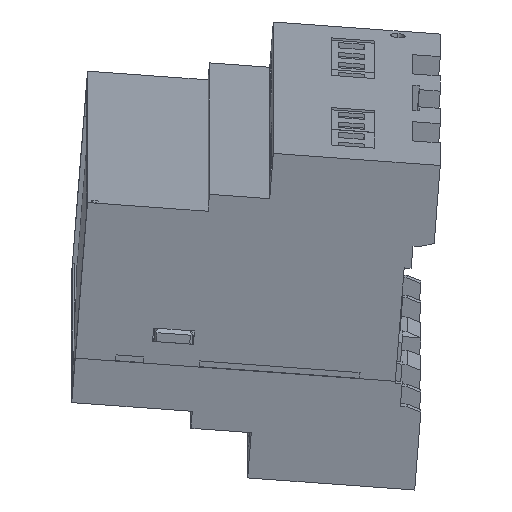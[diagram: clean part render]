
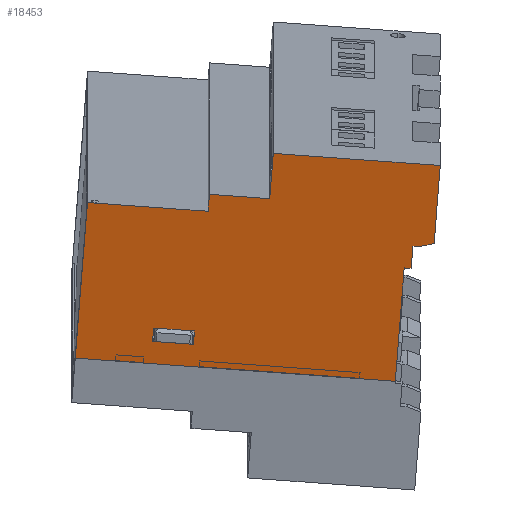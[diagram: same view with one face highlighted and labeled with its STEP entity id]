
A CAD part, left-side view. The second image highlights one B-rep face of the part: STEP entity #18453.
In plain terms, the highlighted planar face has unit normal (-0.958, 0, -0.285) as drawn and (1, 0, 0) by its records, which use the part's own axes.
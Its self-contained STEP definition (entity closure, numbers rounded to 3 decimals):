
#19 = FACE_BOUND ( 'NONE', #8338, .T. ) ;
#213 = FACE_OUTER_BOUND ( 'NONE', #8778, .T. ) ;
#821 = VERTEX_POINT ( 'NONE', #19517 ) ;
#1004 = VERTEX_POINT ( 'NONE', #19536 ) ;
#1098 = VERTEX_POINT ( 'NONE', #18541 ) ;
#1197 = VERTEX_POINT ( 'NONE', #18556 ) ;
#1535 = VECTOR ( 'NONE', #14159, 1000. ) ;
#1565 = VECTOR ( 'NONE', #15110, 1000. ) ;
#1599 = LINE ( 'NONE', #14158, #1535 ) ;
#1610 = VECTOR ( 'NONE', #15158, 1000. ) ;
#1641 = VECTOR ( 'NONE', #14086, 1000. ) ;
#1772 = VECTOR ( 'NONE', #18687, 1000. ) ;
#1848 = LINE ( 'NONE', #18841, #1957 ) ;
#1855 = LINE ( 'NONE', #14085, #1641 ) ;
#1957 = VECTOR ( 'NONE', #18846, 1000. ) ;
#2000 = LINE ( 'NONE', #18918, #2056 ) ;
#2056 = VECTOR ( 'NONE', #18936, 1000. ) ;
#2134 = LINE ( 'NONE', #15157, #2243 ) ;
#2191 = LINE ( 'NONE', #18682, #1772 ) ;
#2243 = VECTOR ( 'NONE', #15163, 1000. ) ;
#2262 = LINE ( 'NONE', #15108, #1565 ) ;
#2336 = LINE ( 'NONE', #15156, #1610 ) ;
#4843 = LINE ( 'NONE', #14384, #4951 ) ;
#4847 = LINE ( 'NONE', #14193, #5107 ) ;
#4881 = VECTOR ( 'NONE', #14366, 1000. ) ;
#4951 = VECTOR ( 'NONE', #14385, 1000. ) ;
#4971 = VECTOR ( 'NONE', #7831, 1000. ) ;
#5007 = VECTOR ( 'NONE', #14206, 1000. ) ;
#5019 = LINE ( 'NONE', #14348, #4881 ) ;
#5050 = LINE ( 'NONE', #14205, #5007 ) ;
#5107 = VECTOR ( 'NONE', #14183, 1000. ) ;
#5251 = VECTOR ( 'NONE', #14375, 1000. ) ;
#5254 = LINE ( 'NONE', #14373, #5251 ) ;
#5257 = LINE ( 'NONE', #14371, #5335 ) ;
#5335 = VECTOR ( 'NONE', #14372, 1000. ) ;
#5371 = LINE ( 'NONE', #7789, #5498 ) ;
#5421 = LINE ( 'NONE', #14418, #5466 ) ;
#5425 = LINE ( 'NONE', #7830, #4971 ) ;
#5466 = VECTOR ( 'NONE', #14419, 1000. ) ;
#5498 = VECTOR ( 'NONE', #7790, 1000. ) ;
#7574 = CARTESIAN_POINT ( 'NONE',  ( 49.5, -2., 0. ) ) ;
#7594 = CARTESIAN_POINT ( 'NONE',  ( 49.5, 20.7, 41. ) ) ;
#7617 = CARTESIAN_POINT ( 'NONE',  ( 49.5, -35., 18.5 ) ) ;
#7634 = CARTESIAN_POINT ( 'NONE',  ( 49.5, -33.5, 18.5 ) ) ;
#7645 = CARTESIAN_POINT ( 'NONE',  ( 49.5, -2., 10.18 ) ) ;
#7656 = CARTESIAN_POINT ( 'NONE',  ( 49.5, 11., 10.18 ) ) ;
#7662 = CARTESIAN_POINT ( 'NONE',  ( 49.5, -33.5, 23.5 ) ) ;
#7679 = CARTESIAN_POINT ( 'NONE',  ( 49.5, -38., 17.5 ) ) ;
#7690 = CARTESIAN_POINT ( 'NONE',  ( 49.5, -32., 49. ) ) ;
#7694 = CARTESIAN_POINT ( 'NONE',  ( 49.5, 20.7, 44. ) ) ;
#7711 = CARTESIAN_POINT ( 'NONE',  ( 49.5, 11., 14. ) ) ;
#7789 = CARTESIAN_POINT ( 'NONE',  ( 49.5, -38., 23.5 ) ) ;
#7790 = DIRECTION ( 'NONE',  ( 0., 1., 0. ) ) ;
#7830 = CARTESIAN_POINT ( 'NONE',  ( 49.5, -35., 18.5 ) ) ;
#7831 = DIRECTION ( 'NONE',  ( 0., 0.949, 0.316 ) ) ;
#8277 = VERTEX_POINT ( 'NONE', #7574 ) ;
#8338 = EDGE_LOOP ( 'NONE', ( #10265, #17243, #17987, #16671 ) ) ;
#8394 = VERTEX_POINT ( 'NONE', #7594 ) ;
#8440 = VERTEX_POINT ( 'NONE', #7617 ) ;
#8494 = VERTEX_POINT ( 'NONE', #7634 ) ;
#8513 = VERTEX_POINT ( 'NONE', #7645 ) ;
#8534 = VERTEX_POINT ( 'NONE', #7656 ) ;
#8543 = VERTEX_POINT ( 'NONE', #7662 ) ;
#8573 = VERTEX_POINT ( 'NONE', #7679 ) ;
#8604 = VERTEX_POINT ( 'NONE', #7690 ) ;
#8644 = VERTEX_POINT ( 'NONE', #7694 ) ;
#8703 = VERTEX_POINT ( 'NONE', #7711 ) ;
#8778 = EDGE_LOOP ( 'NONE', ( #16897, #10321, #10446, #10135, #10252, #10338, #10380, #17913, #10040, #11302, #10498, #10349, #10499 ) ) ;
#8929 = VERTEX_POINT ( 'NONE', #14687 ) ;
#8942 = VERTEX_POINT ( 'NONE', #14685 ) ;
#10040 = ORIENTED_EDGE ( 'NONE', *, *, #13690, .F. ) ;
#10135 = ORIENTED_EDGE ( 'NONE', *, *, #13802, .F. ) ;
#10252 = ORIENTED_EDGE ( 'NONE', *, *, #13354, .T. ) ;
#10265 = ORIENTED_EDGE ( 'NONE', *, *, #13633, .T. ) ;
#10321 = ORIENTED_EDGE ( 'NONE', *, *, #13838, .F. ) ;
#10324 = AXIS2_PLACEMENT_3D ( 'NONE', #11766, #11763, #11770 ) ;
#10338 = ORIENTED_EDGE ( 'NONE', *, *, #13351, .T. ) ;
#10349 = ORIENTED_EDGE ( 'NONE', *, *, #13816, .F. ) ;
#10380 = ORIENTED_EDGE ( 'NONE', *, *, #13780, .T. ) ;
#10446 = ORIENTED_EDGE ( 'NONE', *, *, #13383, .F. ) ;
#10498 = ORIENTED_EDGE ( 'NONE', *, *, #13461, .T. ) ;
#10499 = ORIENTED_EDGE ( 'NONE', *, *, #13774, .F. ) ;
#11302 = ORIENTED_EDGE ( 'NONE', *, *, #13770, .T. ) ;
#11763 = DIRECTION ( 'NONE',  ( -1., 0., 0. ) ) ;
#11766 = CARTESIAN_POINT ( 'NONE',  ( 49.5, 37., 49. ) ) ;
#11768 = PLANE ( 'NONE',  #10324 ) ;
#11770 = DIRECTION ( 'NONE',  ( 0., 0., 1. ) ) ;
#13328 = EDGE_CURVE ( 'NONE', #8440, #8494, #2262, .T. ) ;
#13351 = EDGE_CURVE ( 'NONE', #8513, #8534, #2336, .T. ) ;
#13354 = EDGE_CURVE ( 'NONE', #8277, #8513, #2134, .T. ) ;
#13383 = EDGE_CURVE ( 'NONE', #8929, #8573, #2191, .T. ) ;
#13461 = EDGE_CURVE ( 'NONE', #8604, #1004, #1848, .T. ) ;
#13506 = EDGE_CURVE ( 'NONE', #8394, #1098, #2000, .T. ) ;
#13633 = EDGE_CURVE ( 'NONE', #8644, #8394, #1855, .T. ) ;
#13668 = EDGE_CURVE ( 'NONE', #1197, #8644, #1599, .T. ) ;
#13690 = EDGE_CURVE ( 'NONE', #8942, #821, #4847, .T. ) ;
#13691 = EDGE_CURVE ( 'NONE', #1098, #1197, #5050, .T. ) ;
#13770 = EDGE_CURVE ( 'NONE', #8942, #8604, #5019, .T. ) ;
#13773 = EDGE_CURVE ( 'NONE', #8703, #821, #5257, .T. ) ;
#13774 = EDGE_CURVE ( 'NONE', #8494, #8543, #5254, .T. ) ;
#13780 = EDGE_CURVE ( 'NONE', #8534, #8703, #4843, .T. ) ;
#13802 = EDGE_CURVE ( 'NONE', #8277, #8929, #5421, .T. ) ;
#13816 = EDGE_CURVE ( 'NONE', #8543, #1004, #5371, .T. ) ;
#13838 = EDGE_CURVE ( 'NONE', #8573, #8440, #5425, .T. ) ;
#14085 = CARTESIAN_POINT ( 'NONE',  ( 49.5, 20.7, 49. ) ) ;
#14086 = DIRECTION ( 'NONE',  ( 0., 0., -1. ) ) ;
#14158 = CARTESIAN_POINT ( 'NONE',  ( 49.5, 37., 44. ) ) ;
#14159 = DIRECTION ( 'NONE',  ( 0., 1., 0. ) ) ;
#14183 = DIRECTION ( 'NONE',  ( 0., 0., -1. ) ) ;
#14193 = CARTESIAN_POINT ( 'NONE',  ( 49.5, 37., 49. ) ) ;
#14205 = CARTESIAN_POINT ( 'NONE',  ( 49.5, 11.9, 49. ) ) ;
#14206 = DIRECTION ( 'NONE',  ( 0., 0., 1. ) ) ;
#14348 = CARTESIAN_POINT ( 'NONE',  ( 49.5, 37., 49. ) ) ;
#14366 = DIRECTION ( 'NONE',  ( 0., -1., 0. ) ) ;
#14371 = CARTESIAN_POINT ( 'NONE',  ( 49.5, 11., 14. ) ) ;
#14372 = DIRECTION ( 'NONE',  ( 0., 1., 0. ) ) ;
#14373 = CARTESIAN_POINT ( 'NONE',  ( 49.5, -33.5, 23.5 ) ) ;
#14375 = DIRECTION ( 'NONE',  ( 0., 0., 1. ) ) ;
#14384 = CARTESIAN_POINT ( 'NONE',  ( 49.5, 11., 10.18 ) ) ;
#14385 = DIRECTION ( 'NONE',  ( 0., 0., 1. ) ) ;
#14418 = CARTESIAN_POINT ( 'NONE',  ( 49.5, 37., 0. ) ) ;
#14419 = DIRECTION ( 'NONE',  ( 0., -1., 0. ) ) ;
#14685 = CARTESIAN_POINT ( 'NONE',  ( 49.5, 37., 49. ) ) ;
#14687 = CARTESIAN_POINT ( 'NONE',  ( 49.5, -38., 0. ) ) ;
#15108 = CARTESIAN_POINT ( 'NONE',  ( 49.5, -33.5, 18.5 ) ) ;
#15110 = DIRECTION ( 'NONE',  ( 0., 1., 0. ) ) ;
#15156 = CARTESIAN_POINT ( 'NONE',  ( 49.5, -2., 10.18 ) ) ;
#15157 = CARTESIAN_POINT ( 'NONE',  ( 49.5, -2., 0. ) ) ;
#15158 = DIRECTION ( 'NONE',  ( 0., 1., 0. ) ) ;
#15163 = DIRECTION ( 'NONE',  ( 0., 0., 1. ) ) ;
#16671 = ORIENTED_EDGE ( 'NONE', *, *, #13668, .T. ) ;
#16897 = ORIENTED_EDGE ( 'NONE', *, *, #13328, .F. ) ;
#17243 = ORIENTED_EDGE ( 'NONE', *, *, #13506, .T. ) ;
#17913 = ORIENTED_EDGE ( 'NONE', *, *, #13773, .T. ) ;
#17987 = ORIENTED_EDGE ( 'NONE', *, *, #13691, .T. ) ;
#18453 = ADVANCED_FACE ( 'NONE', ( #19, #213 ), #11768, .F. ) ;
#18541 = CARTESIAN_POINT ( 'NONE',  ( 49.5, 11.9, 41. ) ) ;
#18556 = CARTESIAN_POINT ( 'NONE',  ( 49.5, 11.9, 44. ) ) ;
#18682 = CARTESIAN_POINT ( 'NONE',  ( 49.5, -38., 0. ) ) ;
#18687 = DIRECTION ( 'NONE',  ( 0., 0., 1. ) ) ;
#18841 = CARTESIAN_POINT ( 'NONE',  ( 49.5, -32., 49. ) ) ;
#18846 = DIRECTION ( 'NONE',  ( 0., 0., -1. ) ) ;
#18918 = CARTESIAN_POINT ( 'NONE',  ( 49.5, 37., 41. ) ) ;
#18936 = DIRECTION ( 'NONE',  ( 0., -1., 0. ) ) ;
#19517 = CARTESIAN_POINT ( 'NONE',  ( 49.5, 37., 14. ) ) ;
#19536 = CARTESIAN_POINT ( 'NONE',  ( 49.5, -32., 23.5 ) ) ;
